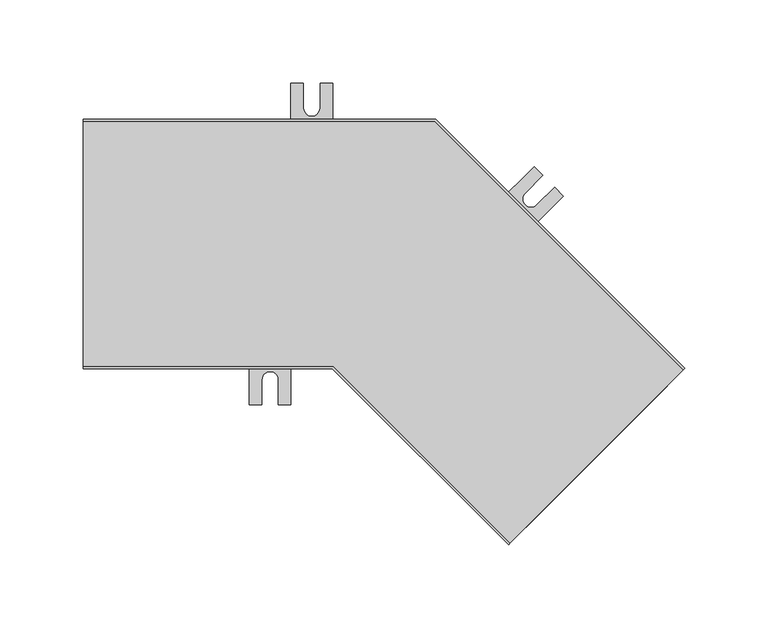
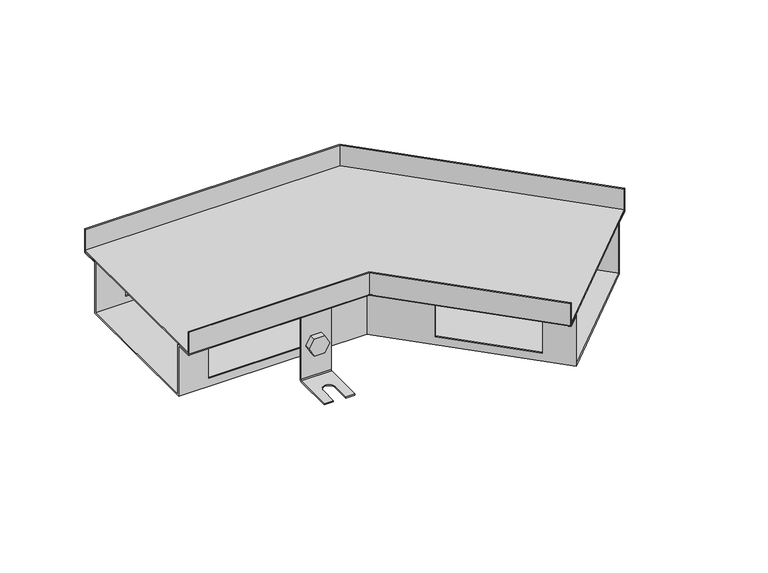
"""IFC4 building model written with IfcOpenShell, lengths in millimetres: proxy geometry, TECHNO_Угловой элемент_KVU : 150_065_135°."""

from ifc_helpers import new_model, si_unit, point, frame, frame_2d, origin, place, context, project, spatial, polyline, circle_curve, ellipse_curve, trimmed, segment, composite_curve, outline, extrude, source, transform, mapped, element, save
from ifc_brep_helpers import plane_surface, cylinder_surface, revolved_surface, advanced_brep


def mechanical_equipment_8c528c47(model_context):
    return source(origin(), model_context, "Body", "SolidModel", [
        extrude(outline(composite_curve([segment(trimmed(circle_curve(frame_2d((0.0, -7.5000001)), 7.5), [point((0.0, -15.0))], [point((0.0, 0.0))], False, "CARTESIAN"), True, "CONTINUOUS"), segment(trimmed(circle_curve(frame_2d((0.0, -7.5000001)), 7.5), [point((0.0, 0.0))], [point((0.0, -15.0))], False, "CARTESIAN"), True, "CONTINUOUS")], self_intersect=False)), frame((254.0021428, -34.3187084, -55.5), z_axis=(0.7071067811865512, 0.7071067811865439, 0.0), x_axis=(0.0, 0.0, 1.0)), (0.0, 0.0, 1.0), 1.5),
        extrude(outline(polyline([(0.0, 0.0), (8.660254, 0.0), (12.990381, -7.5), (8.660254, -15.0), (0.0, -15.0), (-4.330127, -7.5), (0.0, 0.0)])), frame((238.1203449, -27.3464559, -55.5), z_axis=(0.7071067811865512, 0.7071067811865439, 0.0), x_axis=(0.35355339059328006, -0.3535533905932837, -0.866025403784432)), (0.0, 0.0, 1.0), 5.1),
        advanced_brep(
        [(256.6891486, -38.7027704, -20.5), (256.6891486, -38.7027704, -83.5), (256.1234631, -39.2684558, -84.3), (232.7889394, -62.6029796, -84.3), (232.7889394, -62.6029796, -85.5), (256.1234631, -39.2684558, -85.5), (257.5376767, -37.8542423, -83.5), (257.5376767, -37.8542423, -20.5), (239.011479, -21.0251009, -20.5), (239.8600072, -20.1765727, -20.5), (239.8600072, -20.1765727, -83.5), (238.4457936, -21.5907863, -85.5), (215.1112698, -44.9253101, -85.5), (215.1112698, -44.9253101, -84.3), (238.4457936, -21.5907863, -84.3), (239.011479, -21.0251009, -83.5), (220.4145707, -50.2286109, -84.3), (231.0211724, -39.6220092, -84.3), (238.0922402, -46.693077, -84.3), (227.4856385, -57.2996788, -84.3), (227.4856385, -57.2996788, -85.5), (220.4145707, -50.2286109, -85.5), (238.0922402, -46.693077, -85.5), (231.0211724, -39.6220092, -85.5)],
        [
            (0, 1),
            (1, 2, circle_curve(frame((256.1234631, -39.2684558, -83.5), z_axis=(-0.7071067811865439, 0.7071067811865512, 0.0), x_axis=(-0.7071067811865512, -0.7071067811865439, 0.0)), 0.8)),
            (2, 3),
            (3, 4),
            (4, 5),
            (5, 6, circle_curve(frame((256.1234631, -39.2684558, -83.5), z_axis=(0.7071067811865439, -0.7071067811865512, 0.0), x_axis=(-0.7071067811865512, -0.7071067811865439, 0.0)), 2.0)),
            (6, 7),
            (7, 0),
            (8, 9),
            (9, 10),
            (10, 11, circle_curve(frame((238.4457936, -21.5907863, -83.5), z_axis=(-0.7071067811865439, 0.7071067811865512, 0.0), x_axis=(-0.7071067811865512, -0.7071067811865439, 0.0)), 2.0)),
            (11, 12),
            (12, 13),
            (13, 14),
            (14, 15, circle_curve(frame((238.4457936, -21.5907863, -83.5), z_axis=(0.7071067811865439, -0.7071067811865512, 0.0), x_axis=(-0.7071067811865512, -0.7071067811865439, 0.0)), 0.8)),
            (15, 8),
            (0, 8),
            (15, 1),
            (14, 2),
            (13, 16),
            (16, 17),
            (17, 18, circle_curve(frame((234.5567063, -43.1575431, -84.3), z_axis=(0.0, 0.0, -1.0), x_axis=(0.7071067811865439, -0.7071067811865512, 0.0)), 5.0)),
            (18, 19),
            (19, 3),
            (19, 20),
            (20, 4),
            (12, 21),
            (21, 16),
            (20, 22),
            (22, 23, circle_curve(frame((234.5567063, -43.1575431, -85.5), z_axis=(0.0, 0.0, 1.0), x_axis=(0.7071067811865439, -0.7071067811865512, 0.0)), 5.0)),
            (23, 21),
            (11, 5),
            (10, 6),
            (9, 7),
            (23, 17),
            (18, 22),
        ],
        [
            plane_surface(frame((256.6891486, -38.7027704, -20.5), z_axis=(0.7071067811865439, -0.7071067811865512, 0.0), x_axis=(0.0, 0.0, -1.0))),
            plane_surface(frame((239.011479, -21.0251009, -20.5), z_axis=(-0.7071067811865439, 0.7071067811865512, 0.0), x_axis=(0.0, 0.0, 1.0))),
            plane_surface(frame((256.6891486, -38.7027704, -20.5), z_axis=(-0.7071067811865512, -0.7071067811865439, 0.0), x_axis=(-0.7071067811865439, 0.7071067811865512, 0.0))),
            revolved_surface(polyline([(237.88010817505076, -22.156471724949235, -83.5), (255.55777772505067, -39.83414127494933, -83.5)]), (238.4457936, -21.5907863, -83.5), (-0.7071067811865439, 0.7071067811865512, 0.0)),
            plane_surface(frame((256.1234631, -39.2684558, -84.3), z_axis=(0.0, 0.0, 1.0), x_axis=(-0.7071067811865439, 0.7071067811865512, 0.0))),
            plane_surface(frame((232.7889394, -62.6029796, -84.3), z_axis=(-0.7071067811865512, -0.7071067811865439, 0.0), x_axis=(-0.7071067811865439, 0.7071067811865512, 0.0))),
            plane_surface(frame((232.7889394, -62.6029796, -85.5), z_axis=(0.0, 0.0, -1.0), x_axis=(-0.7071067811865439, 0.7071067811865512, 0.0))),
            cylinder_surface(frame((238.4457936, -21.5907863, -83.5), z_axis=(0.7071067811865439, -0.7071067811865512, 0.0), x_axis=(-0.7071067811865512, -0.7071067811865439, 0.0)), 2.0),
            plane_surface(frame((257.5376767, -37.8542423, -83.5), z_axis=(0.7071067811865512, 0.7071067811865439, 0.0), x_axis=(-0.7071067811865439, 0.7071067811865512, 0.0))),
            plane_surface(frame((257.5376767, -37.8542423, -20.5), z_axis=(0.0, 0.0, 1.0), x_axis=(-0.7071067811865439, 0.7071067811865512, 0.0))),
            plane_surface(frame((231.0211724, -39.6220092, -84.3), z_axis=(0.7071067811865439, -0.7071067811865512, 0.0), x_axis=(0.0, 0.0, -1.0))),
            plane_surface(frame((227.4856385, -57.2996788, -84.3), z_axis=(-0.707106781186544, 0.7071067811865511, 0.0), x_axis=(0.0, 0.0, -1.0))),
            revolved_surface(polyline([(238.0922402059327, -46.69307700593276, -84.3), (238.0922402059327, -46.69307700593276, -85.5)]), (234.5567063, -43.1575431, -85.5), (0.0, 0.0, 1.0)),
        ],
        [
            (0, [[1, 2, 3, 4, 5, 6, 7, 8]]),
            (1, [[9, 10, 11, 12, 13, 14, 15, 16]]),
            (2, [[-1, 17, -16, 18]]),
            (3, [[-2, -18, -15, 19]]),
            (4, [[-3, -19, -14, 20, 21, 22, 23, 24]]),
            (5, [[-4, -24, 25, 26]]),
            (5, [[-13, 27, 28, -20]]),
            (6, [[-5, -26, 29, 30, 31, -27, -12, 32]]),
            (7, [[-6, -32, -11, 33]]),
            (8, [[-7, -33, -10, 34]]),
            (9, [[-8, -34, -9, -17]]),
            (10, [[35, -21, -28, -31]]),
            (11, [[36, -29, -25, -23]]),
            (12, [[-35, -30, -36, -22]]),
        ],
    ),
        extrude(outline(composite_curve([segment(trimmed(circle_curve(frame_2d((0.0, -7.5)), 7.5), [point((0.0, -15.0))], [point((0.0, 0.0))], False, "CARTESIAN"), True, "CONTINUOUS"), segment(trimmed(circle_curve(frame_2d((0.0, -7.5)), 7.5), [point((0.0, 0.0))], [point((0.0, -15.0))], False, "CARTESIAN"), True, "CONTINUOUS")], self_intersect=False)), frame((248.910974, 17.1586653, -55.5), z_axis=(0.7071067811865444, 0.7071067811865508, 0.0), x_axis=(0.0, 0.0, -1.0)), (0.0, 0.0, 1.0), 1.5),
        extrude(outline(polyline([(0.0, 0.0), (4.330127, -7.5), (0.0, -15.0), (-8.660254, -15.0), (-12.990381, -7.5), (-8.6602541, 0.0), (0.0, 0.0)])), frame((262.2471875, 7.6408284, -55.5), z_axis=(0.7071067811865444, 0.7071067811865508, 0.0), x_axis=(0.3535533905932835, -0.3535533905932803, 0.866025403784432)), (0.0, 0.0, 1.0), 5.1),
        advanced_brep(
        [(247.2846284, 22.6033875, -20.5), (247.2846284, 22.6033875, -83.5), (247.8503138, 23.1690729, -84.3), (271.1848376, 46.5035967, -84.3), (271.1848376, 46.5035967, -85.5), (247.8503138, 23.1690729, -85.5), (246.4361002, 21.7548594, -83.5), (246.4361002, 21.7548594, -20.5), (264.9622979, 4.925718, -20.5), (264.1137698, 4.0771898, -20.5), (264.1137698, 4.0771898, -83.5), (265.5279833, 5.4914034, -85.5), (288.8625071, 28.8259272, -85.5), (288.8625071, 28.8259272, -84.3), (265.5279833, 5.4914034, -84.3), (264.9622979, 4.925718, -83.5), (283.5592063, 34.129228, -84.3), (272.9526045, 23.5226263, -84.3), (265.8815367, 30.5936941, -84.3), (276.4881384, 41.2002959, -84.3), (276.4881384, 41.2002959, -85.5), (283.5592063, 34.129228, -85.5), (265.8815367, 30.5936941, -85.5), (272.9526045, 23.5226263, -85.5)],
        [
            (0, 1),
            (1, 2, circle_curve(frame((247.8503138, 23.1690729, -83.5), z_axis=(0.7071067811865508, -0.7071067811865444, 0.0), x_axis=(0.7071067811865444, 0.7071067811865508, 0.0)), 0.8)),
            (2, 3),
            (3, 4),
            (4, 5),
            (5, 6, circle_curve(frame((247.8503138, 23.1690729, -83.5), z_axis=(-0.7071067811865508, 0.7071067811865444, 0.0), x_axis=(0.7071067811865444, 0.7071067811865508, 0.0)), 2.0)),
            (6, 7),
            (7, 0),
            (8, 9),
            (9, 10),
            (10, 11, circle_curve(frame((265.5279833, 5.4914034, -83.5), z_axis=(0.7071067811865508, -0.7071067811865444, 0.0), x_axis=(0.7071067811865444, 0.7071067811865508, 0.0)), 2.0)),
            (11, 12),
            (12, 13),
            (13, 14),
            (14, 15, circle_curve(frame((265.5279833, 5.4914034, -83.5), z_axis=(-0.7071067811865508, 0.7071067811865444, 0.0), x_axis=(0.7071067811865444, 0.7071067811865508, 0.0)), 0.8)),
            (15, 8),
            (0, 8),
            (15, 1),
            (14, 2),
            (13, 16),
            (16, 17),
            (17, 18, circle_curve(frame((269.4170706, 27.0581602, -84.3), z_axis=(0.0, 0.0, -1.0), x_axis=(-0.7071067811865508, 0.7071067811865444, 0.0)), 5.0)),
            (18, 19),
            (19, 3),
            (19, 20),
            (20, 4),
            (12, 21),
            (21, 16),
            (20, 22),
            (22, 23, circle_curve(frame((269.4170706, 27.0581602, -85.5), z_axis=(0.0, 0.0, 1.0), x_axis=(-0.7071067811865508, 0.7071067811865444, 0.0)), 5.0)),
            (23, 21),
            (11, 5),
            (10, 6),
            (9, 7),
            (23, 17),
            (18, 22),
        ],
        [
            plane_surface(frame((247.2846284, 22.6033875, -20.5), z_axis=(-0.7071067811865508, 0.7071067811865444, 0.0), x_axis=(0.0, 0.0, -1.0))),
            plane_surface(frame((264.9622979, 4.925718, -20.5), z_axis=(0.7071067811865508, -0.7071067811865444, 0.0), x_axis=(0.0, 0.0, 1.0))),
            plane_surface(frame((247.2846284, 22.6033875, -20.5), z_axis=(0.7071067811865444, 0.7071067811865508, 0.0), x_axis=(0.7071067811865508, -0.7071067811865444, 0.0))),
            revolved_surface(polyline([(266.0936687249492, 6.057088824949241, -83.5), (248.41599922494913, 23.734758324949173, -83.5)]), (265.5279833, 5.4914034, -83.5), (0.7071067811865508, -0.7071067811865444, 0.0)),
            plane_surface(frame((247.8503138, 23.1690729, -84.3), z_axis=(0.0, 0.0, 1.0000000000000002), x_axis=(0.7071067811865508, -0.7071067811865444, 0.0))),
            plane_surface(frame((271.1848376, 46.5035967, -84.3), z_axis=(0.7071067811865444, 0.7071067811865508, 0.0), x_axis=(0.7071067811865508, -0.7071067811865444, 0.0))),
            plane_surface(frame((271.1848376, 46.5035967, -85.5), z_axis=(0.0, 0.0, -1.0000000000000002), x_axis=(0.7071067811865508, -0.7071067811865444, 0.0))),
            cylinder_surface(frame((265.5279833, 5.4914034, -83.5), z_axis=(-0.7071067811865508, 0.7071067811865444, 0.0), x_axis=(0.7071067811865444, 0.7071067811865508, 0.0)), 2.0),
            plane_surface(frame((246.4361002, 21.7548594, -83.5), z_axis=(-0.7071067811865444, -0.7071067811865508, 0.0), x_axis=(0.7071067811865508, -0.7071067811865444, 0.0))),
            plane_surface(frame((246.4361002, 21.7548594, -20.5), z_axis=(0.0, 0.0, 1.0000000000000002), x_axis=(0.7071067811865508, -0.7071067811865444, 0.0))),
            plane_surface(frame((272.9526045, 23.5226263, -84.3), z_axis=(-0.7071067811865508, 0.7071067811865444, 0.0), x_axis=(0.0, 0.0, -1.0))),
            plane_surface(frame((276.4881384, 41.2002959, -84.3), z_axis=(0.7071067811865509, -0.7071067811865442, 0.0), x_axis=(0.0, 0.0, -1.0))),
            revolved_surface(polyline([(265.8815366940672, 30.59369410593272, -84.3), (265.8815366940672, 30.59369410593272, -85.5)]), (269.4170706, 27.0581602, -85.5), (0.0, 0.0, 1.0)),
        ],
        [
            (0, [[1, 2, 3, 4, 5, 6, 7, 8]]),
            (1, [[9, 10, 11, 12, 13, 14, 15, 16]]),
            (2, [[-1, 17, -16, 18]]),
            (3, [[-2, -18, -15, 19]]),
            (4, [[-3, -19, -14, 20, 21, 22, 23, 24]]),
            (5, [[-4, -24, 25, 26]]),
            (5, [[-13, 27, 28, -20]]),
            (6, [[-5, -26, 29, 30, 31, -27, -12, 32]]),
            (7, [[-6, -32, -11, 33]]),
            (8, [[-7, -33, -10, 34]]),
            (9, [[-8, -34, -9, -17]]),
            (10, [[35, -21, -28, -31]]),
            (11, [[36, -29, -25, -23]]),
            (12, [[-35, -30, -36, -22]]),
        ],
    ),
        extrude(outline(composite_curve([segment(trimmed(circle_curve(frame_2d((-55.5, 137.5)), 7.5), [point((-55.5, 130.0))], [point((-55.5, 145.0))], False, "CARTESIAN"), True, "CONTINUOUS"), segment(trimmed(circle_curve(frame_2d((-55.5, 137.5)), 7.5), [point((-55.5, 145.0))], [point((-55.5, 130.0))], False, "CARTESIAN"), True, "CONTINUOUS")], self_intersect=False)), frame((0.0, 60.2, 0.0), z_axis=(0.0, 1.0, 0.0), x_axis=(0.0, 0.0, 1.0)), (0.0, 0.0, 1.0), 1.5),
        extrude(outline(polyline([(-55.5, 128.839746), (-63.0, 133.169873), (-63.0, 141.830127), (-55.5, 146.160254), (-48.0, 141.830127), (-48.0, 133.169873), (-55.5, 128.839746)])), frame((0.0, 62.9, 0.0), z_axis=(0.0, 1.0, 0.0), x_axis=(0.0, 0.0, 1.0)), (0.0, 0.0, 1.0), 5.1),
        advanced_brep(
        [(150.0, 62.9, -20.5), (150.0, 61.7, -20.5), (150.0, 61.7, -83.5), (150.0, 63.7, -85.5), (150.0, 96.7, -85.5), (150.0, 96.7, -84.3), (150.0, 63.7, -84.3), (150.0, 62.9, -83.5), (125.0, 62.9, -20.5), (125.0, 62.9, -83.5), (125.0, 63.7, -84.3), (125.0, 96.7, -84.3), (125.0, 96.7, -85.5), (125.0, 63.7, -85.5), (125.0, 61.7, -83.5), (125.0, 61.7, -20.5), (142.5, 96.7, -84.3), (142.5, 81.7, -84.3), (132.5, 81.7, -84.3), (132.5, 96.7, -84.3), (132.5, 96.7, -85.5), (142.5, 96.7, -85.5), (132.5, 81.7, -85.5), (142.5, 81.7, -85.5)],
        [
            (0, 1),
            (1, 2),
            (2, 3, circle_curve(frame((150.0, 63.7, -83.5), z_axis=(1.0, 0.0, 0.0), x_axis=(0.0, 1.0, 0.0)), 2.0)),
            (3, 4),
            (4, 5),
            (5, 6),
            (6, 7, circle_curve(frame((150.0, 63.7, -83.5), z_axis=(-1.0, 0.0, 0.0), x_axis=(0.0, 1.0, 0.0)), 0.8)),
            (7, 0),
            (8, 9),
            (9, 10, circle_curve(frame((125.0, 63.7, -83.5), z_axis=(1.0, 0.0, 0.0), x_axis=(0.0, 1.0, 0.0)), 0.8)),
            (10, 11),
            (11, 12),
            (12, 13),
            (13, 14, circle_curve(frame((125.0, 63.7, -83.5), z_axis=(-1.0, 0.0, 0.0), x_axis=(0.0, 1.0, 0.0)), 2.0)),
            (14, 15),
            (15, 8),
            (7, 9),
            (8, 0),
            (6, 10),
            (5, 16),
            (16, 17),
            (17, 18, circle_curve(frame((137.5, 81.7, -84.3), z_axis=(0.0, 0.0, -1.0), x_axis=(1.0, 0.0, 0.0)), 5.0)),
            (18, 19),
            (19, 11),
            (19, 20),
            (20, 12),
            (4, 21),
            (21, 16),
            (3, 13),
            (20, 22),
            (22, 23, circle_curve(frame((137.5, 81.7, -85.5), z_axis=(0.0, 0.0, 1.0), x_axis=(1.0, 0.0, 0.0)), 5.0)),
            (23, 21),
            (2, 14),
            (1, 15),
            (18, 22),
            (23, 17),
        ],
        [
            plane_surface(frame((150.0, 62.9, -20.5), z_axis=(1.0, 0.0, 0.0), x_axis=(0.0, 0.0, -1.0))),
            plane_surface(frame((125.0, 62.9, -20.5), z_axis=(-1.0, 0.0, 0.0), x_axis=(0.0, 0.0, 1.0))),
            plane_surface(frame((150.0, 62.9, -20.5), z_axis=(0.0, 1.0, 0.0), x_axis=(-1.0, 0.0, 0.0))),
            revolved_surface(polyline([(125.0, 64.5, -83.5), (150.0, 64.5, -83.5)]), (125.0, 63.7, -83.5), (-1.0, 0.0, 0.0)),
            plane_surface(frame((150.0, 63.7, -84.3), z_axis=(0.0, 0.0, 1.0), x_axis=(-1.0, 0.0, 0.0))),
            plane_surface(frame((150.0, 96.7, -84.3), z_axis=(0.0, 1.0, 0.0), x_axis=(-1.0, 0.0, 0.0))),
            plane_surface(frame((150.0, 96.7, -85.5), z_axis=(0.0, 0.0, -1.0), x_axis=(-1.0, 0.0, 0.0))),
            cylinder_surface(frame((125.0, 63.7, -83.5), z_axis=(1.0, 0.0, 0.0), x_axis=(0.0, 1.0, 0.0)), 2.0),
            plane_surface(frame((150.0, 61.7, -83.5), z_axis=(0.0, -1.0, 0.0), x_axis=(-1.0, 0.0, 0.0))),
            plane_surface(frame((150.0, 61.7, -20.5), z_axis=(0.0, 0.0, 1.0), x_axis=(-1.0, 0.0, 0.0))),
            plane_surface(frame((132.5, 81.7, -84.3), z_axis=(1.0, 0.0, 0.0), x_axis=(0.0, 0.0, -1.0))),
            plane_surface(frame((142.5, 96.7, -84.3), z_axis=(-1.0, 0.0, 0.0), x_axis=(0.0, 0.0, -1.0))),
            revolved_surface(polyline([(142.5, 81.7, -84.3), (142.5, 81.7, -85.5)]), (137.5, 81.7, -85.5), (0.0, 0.0, 1.0)),
        ],
        [
            (0, [[1, 2, 3, 4, 5, 6, 7, 8]]),
            (1, [[9, 10, 11, 12, 13, 14, 15, 16]]),
            (2, [[17, -9, 18, -8]]),
            (3, [[19, -10, -17, -7]]),
            (4, [[20, 21, 22, 23, 24, -11, -19, -6]]),
            (5, [[-24, 25, 26, -12]]),
            (5, [[27, 28, -20, -5]]),
            (6, [[29, -13, -26, 30, 31, 32, -27, -4]]),
            (7, [[33, -14, -29, -3]]),
            (8, [[34, -15, -33, -2]]),
            (9, [[-18, -16, -34, -1]]),
            (10, [[-30, -25, -23, 35]]),
            (11, [[-21, -28, -32, 36]]),
            (12, [[-22, -36, -31, -35]]),
        ],
    ),
        extrude(outline(composite_curve([segment(trimmed(circle_curve(frame_2d((-55.5, 112.5)), 7.5), [point((-55.5, 105.0))], [point((-55.5, 120.0))], False, "CARTESIAN"), True, "CONTINUOUS"), segment(trimmed(circle_curve(frame_2d((-55.5, 112.5)), 7.5), [point((-55.5, 120.0))], [point((-55.5, 105.0))], False, "CARTESIAN"), True, "CONTINUOUS")], self_intersect=False)), frame((0.0, -61.7, 0.0), z_axis=(0.0, 1.0, 0.0), x_axis=(0.0, 0.0, 1.0)), (0.0, 0.0, 1.0), 1.5),
        extrude(outline(polyline([(-55.5, 103.839746), (-63.0, 108.169873), (-63.0, 116.830127), (-55.5, 121.160254), (-48.0, 116.830127), (-48.0, 108.169873), (-55.5, 103.839746)])), frame((0.0, -68.0, 0.0), z_axis=(0.0, 1.0, 0.0), x_axis=(0.0, 0.0, 1.0)), (0.0, 0.0, 1.0), 5.1),
        advanced_brep(
        [(125.0, -62.9, -20.5), (125.0, -62.9, -83.5), (125.0, -63.7, -84.3), (125.0, -96.7, -84.3), (125.0, -96.7, -85.5), (125.0, -63.7, -85.5), (125.0, -61.7, -83.5), (125.0, -61.7, -20.5), (100.0, -62.9, -20.5), (100.0, -61.7, -20.5), (100.0, -61.7, -83.5), (100.0, -63.7, -85.5), (100.0, -96.7, -85.5), (100.0, -96.7, -84.3), (100.0, -63.7, -84.3), (100.0, -62.9, -83.5), (107.5, -96.7, -84.3), (107.5, -81.7, -84.3), (117.5, -81.7, -84.3), (117.5, -96.7, -84.3), (117.5, -96.7, -85.5), (107.5, -96.7, -85.5), (117.5, -81.7, -85.5), (107.5, -81.7, -85.5)],
        [
            (0, 1),
            (1, 2, circle_curve(frame((125.0, -63.7, -83.5), z_axis=(-1.0, 0.0, 0.0), x_axis=(0.0, -1.0, 0.0)), 0.8)),
            (2, 3),
            (3, 4),
            (4, 5),
            (5, 6, circle_curve(frame((125.0, -63.7, -83.5), z_axis=(1.0, 0.0, 0.0), x_axis=(0.0, -1.0, 0.0)), 2.0)),
            (6, 7),
            (7, 0),
            (8, 9),
            (9, 10),
            (10, 11, circle_curve(frame((100.0, -63.7, -83.5), z_axis=(-1.0, 0.0, 0.0), x_axis=(0.0, -1.0, 0.0)), 2.0)),
            (11, 12),
            (12, 13),
            (13, 14),
            (14, 15, circle_curve(frame((100.0, -63.7, -83.5), z_axis=(1.0, 0.0, 0.0), x_axis=(0.0, -1.0, 0.0)), 0.8)),
            (15, 8),
            (0, 8),
            (15, 1),
            (14, 2),
            (13, 16),
            (16, 17),
            (17, 18, circle_curve(frame((112.5, -81.7, -84.3), z_axis=(0.0, 0.0, -1.0), x_axis=(1.0, 0.0, 0.0)), 5.0)),
            (18, 19),
            (19, 3),
            (19, 20),
            (20, 4),
            (12, 21),
            (21, 16),
            (20, 22),
            (22, 23, circle_curve(frame((112.5, -81.7, -85.5), z_axis=(0.0, 0.0, 1.0), x_axis=(1.0, 0.0, 0.0)), 5.0)),
            (23, 21),
            (11, 5),
            (10, 6),
            (9, 7),
            (23, 17),
            (18, 22),
        ],
        [
            plane_surface(frame((125.0, -62.9, -20.5), z_axis=(1.0, 0.0, 0.0), x_axis=(0.0, 0.0, -1.0))),
            plane_surface(frame((100.0, -62.9, -20.5), z_axis=(-1.0, 0.0, 0.0), x_axis=(0.0, 0.0, 1.0))),
            plane_surface(frame((125.0, -62.9, -20.5), z_axis=(0.0, -1.0, 0.0), x_axis=(-1.0, 0.0, 0.0))),
            revolved_surface(polyline([(100.0, -64.5, -83.5), (125.0, -64.5, -83.5)]), (100.0, -63.7, -83.5), (-1.0, 0.0, 0.0)),
            plane_surface(frame((125.0, -63.7, -84.3), z_axis=(0.0, 0.0, 1.0), x_axis=(-1.0, 0.0, 0.0))),
            plane_surface(frame((125.0, -96.7, -84.3), z_axis=(0.0, -1.0, 0.0), x_axis=(-1.0, 0.0, 0.0))),
            plane_surface(frame((125.0, -96.7, -85.5), z_axis=(0.0, 0.0, -1.0), x_axis=(-1.0, 0.0, 0.0))),
            cylinder_surface(frame((100.0, -63.7, -83.5), z_axis=(1.0, 0.0, 0.0), x_axis=(0.0, -1.0, 0.0)), 2.0),
            plane_surface(frame((125.0, -61.7, -83.5), z_axis=(0.0, 1.0, 0.0), x_axis=(-1.0, 0.0, 0.0))),
            plane_surface(frame((125.0, -61.7, -20.5), z_axis=(0.0, 0.0, 1.0), x_axis=(-1.0, 0.0, 0.0))),
            plane_surface(frame((107.5, -81.7, -84.3), z_axis=(1.0, 0.0, 0.0), x_axis=(0.0, 0.0, -1.0))),
            plane_surface(frame((117.5, -96.7, -84.3), z_axis=(-1.0, 0.0, 0.0), x_axis=(0.0, 0.0, -1.0))),
            revolved_surface(polyline([(117.5, -81.7, -84.3), (117.5, -81.7, -85.5)]), (112.5, -81.7, -85.5), (0.0, 0.0, 1.0)),
        ],
        [
            (0, [[1, 2, 3, 4, 5, 6, 7, 8]]),
            (1, [[9, 10, 11, 12, 13, 14, 15, 16]]),
            (2, [[-1, 17, -16, 18]]),
            (3, [[-2, -18, -15, 19]]),
            (4, [[-3, -19, -14, 20, 21, 22, 23, 24]]),
            (5, [[-4, -24, 25, 26]]),
            (5, [[-13, 27, 28, -20]]),
            (6, [[-5, -26, 29, 30, 31, -27, -12, 32]]),
            (7, [[-6, -32, -11, 33]]),
            (8, [[-7, -33, -10, 34]]),
            (9, [[-8, -34, -9, -17]]),
            (10, [[35, -21, -28, -31]]),
            (11, [[36, -29, -25, -23]]),
            (12, [[-35, -30, -36, -22]]),
        ],
    ),
        extrude(outline(polyline([(361.0581095, -75.7551657), (256.6891486, -180.1241267), (150.3650219, -73.8), (0.0, -73.8), (0.0, 73.8), (211.5029437, 73.8), (361.0581095, -75.7551657)])), frame((0.0, 0.0, -19.3), z_axis=(0.0, 0.0, 1.0), x_axis=(1.0, 0.0, 0.0)), (0.0, 0.0, 1.0), 1.2),
        advanced_brep(
        [(255.8406204, -180.9726548, -19.3), (256.6891486, -180.1241267, -20.5), (266.3058008, -170.5074744, -20.5), (266.3058008, -170.5074744, -65.0), (351.4414572, -85.371818, -65.0), (351.4414572, -85.371818, -20.5), (361.0581095, -75.7551657, -20.5), (361.9066376, -74.9066376, -19.3), (361.9066376, -74.9066376, 0.0), (361.0581095, -75.7551657, 0.0), (361.0581095, -75.7551657, -19.3), (351.4414572, -85.371818, -19.3), (350.5929291, -86.2203461, -20.5), (350.5929291, -86.2203461, -63.8), (267.1543289, -169.6589463, -63.8), (267.1543289, -169.6589463, -20.5), (266.3058008, -170.5074744, -19.3), (256.6891486, -180.1241267, -19.3), (256.6891486, -180.1241267, 0.0), (255.8406204, -180.9726548, 0.0), (0.0, -75.0, -19.3), (0.0, -75.0, 0.0), (0.0, -73.8, 0.0), (0.0, -73.8, -19.3), (0.0, -60.2, -19.3), (0.0, -59.0, -20.5), (0.0, -59.0, -63.8), (0.0, 59.0, -63.8), (0.0, 59.0, -20.5), (0.0, 60.2, -19.3), (0.0, 73.8, -19.3), (0.0, 73.8, 0.0), (0.0, 75.0, 0.0), (0.0, 75.0, -19.3), (0.0, 73.8, -20.5), (0.0, 60.2, -20.5), (0.0, 60.2, -65.0), (0.0, -60.2, -65.0), (0.0, -60.2, -20.5), (0.0, -73.8, -20.5), (150.3650219, -73.8, -20.5), (149.8679656, -75.0, -19.3), (150.3650219, -73.8, 0.0), (150.3650219, -73.8, -19.3), (155.9983264, -60.2, -65.0), (155.9983264, -60.2, -20.5), (25.0, -60.2, -23.0), (105.0, -60.2, -23.0), (105.0, -60.2, -58.0), (25.0, -60.2, -58.0), (156.4953826, -59.0, -20.5), (156.4953826, -59.0, -63.8), (105.0, -59.0, -23.0), (25.0, -59.0, -23.0), (25.0, -59.0, -58.0), (105.0, -59.0, -58.0), (155.9983264, -60.2, -19.3), (192.0595888, -96.2612624, -23.0), (248.6281313, -152.8298049, -23.0), (248.6281313, -152.8298049, -58.0), (192.0595888, -96.2612624, -58.0), (205.8696393, 60.2, -65.0), (205.372583, 59.0, -63.8), (249.4766594, -151.9812768, -23.0), (192.9081169, -95.4127343, -23.0), (192.9081169, -95.4127343, -58.0), (249.4766594, -151.9812768, -58.0), (149.8679656, -75.0, 0.0), (205.8696393, 60.2, -20.5), (333.7637877, -67.6941484, -23.0), (277.1952452, -11.1256059, -23.0), (277.1952452, -11.1256059, -58.0), (333.7637877, -67.6941484, -58.0), (211.5029437, 73.8, -20.5), (212.0, 75.0, -19.3), (212.0, 75.0, 0.0), (211.5029437, 73.8, 0.0), (211.5029437, 73.8, -19.3), (205.8696393, 60.2, -19.3), (205.372583, 59.0, -20.5), (276.3467171, -11.9741341, -23.0), (332.9152596, -68.5426766, -23.0), (332.9152596, -68.5426766, -58.0), (276.3467171, -11.9741341, -58.0), (105.0, 60.2, -23.0), (25.0, 60.2, -23.0), (25.0, 60.2, -58.0), (105.0, 60.2, -58.0), (25.0, 59.0, -23.0), (105.0, 59.0, -23.0), (105.0, 59.0, -58.0), (25.0, 59.0, -58.0)],
        [
            (0, 1, circle_curve(frame((256.6891486, -180.1241267, -19.3), z_axis=(0.707106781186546, -0.707106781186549, 0.0), x_axis=(-0.707106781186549, -0.707106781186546, 0.0)), 1.2)),
            (1, 2),
            (2, 3),
            (3, 4),
            (4, 5),
            (5, 6),
            (6, 7, circle_curve(frame((361.0581095, -75.7551657, -19.3), z_axis=(0.707106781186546, -0.707106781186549, 0.0), x_axis=(-0.707106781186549, -0.707106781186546, 0.0)), 1.2)),
            (7, 8),
            (8, 9),
            (9, 10),
            (10, 11),
            (11, 12, circle_curve(frame((351.4414572, -85.371818, -20.5), z_axis=(0.707106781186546, -0.707106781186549, 0.0), x_axis=(-0.707106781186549, -0.707106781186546, 0.0)), 1.2)),
            (12, 13),
            (13, 14),
            (14, 15),
            (15, 16, circle_curve(frame((266.3058008, -170.5074744, -20.5), z_axis=(0.707106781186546, -0.707106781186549, 0.0), x_axis=(-0.707106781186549, -0.707106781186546, 0.0)), 1.2)),
            (16, 17),
            (17, 18),
            (18, 19),
            (19, 0),
            (20, 21),
            (21, 22),
            (22, 23),
            (23, 24),
            (24, 25, circle_curve(frame((0.0, -60.2, -20.5), z_axis=(-1.0, 0.0, 0.0), x_axis=(0.0, -1.0, 0.0)), 1.2)),
            (25, 26),
            (26, 27),
            (27, 28),
            (28, 29, circle_curve(frame((0.0, 60.2, -20.5), z_axis=(-1.0, 0.0, 0.0), x_axis=(0.0, -1.0, 0.0)), 1.2)),
            (29, 30),
            (30, 31),
            (31, 32),
            (32, 33),
            (33, 34, circle_curve(frame((0.0, 73.8, -19.3), z_axis=(-1.0, 0.0, 0.0), x_axis=(0.0, -1.0, 0.0)), 1.2)),
            (34, 35),
            (35, 36),
            (36, 37),
            (37, 38),
            (38, 39),
            (39, 20, circle_curve(frame((0.0, -73.8, -19.3), z_axis=(-1.0, 0.0, 0.0), x_axis=(0.0, -1.0, 0.0)), 1.2)),
            (39, 40),
            (40, 41, ellipse_curve(frame((150.3650219, -73.8, -19.3), z_axis=(-0.9238795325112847, 0.3826834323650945, 0.0), x_axis=(0.38268343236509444, 0.9238795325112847, 0.0)), 1.2988706, 1.2)),
            (41, 20),
            (22, 42),
            (42, 43),
            (43, 23),
            (37, 44),
            (44, 45),
            (45, 38),
            (46, 47),
            (47, 48),
            (48, 49),
            (49, 46),
            (25, 50),
            (50, 51),
            (51, 26),
            (52, 53),
            (53, 54),
            (54, 55),
            (55, 52),
            (24, 56),
            (56, 50, ellipse_curve(frame((155.9983264, -60.2, -20.5), z_axis=(-0.9238795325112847, 0.3826834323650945, 0.0), x_axis=(0.38268343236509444, 0.9238795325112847, 0.0)), 1.2988706, 1.2)),
            (0, 41),
            (40, 1),
            (45, 2),
            (44, 3),
            (57, 58),
            (58, 59),
            (59, 60),
            (60, 57),
            (36, 61),
            (61, 4),
            (13, 62),
            (62, 27),
            (51, 14),
            (50, 15),
            (63, 64),
            (64, 65),
            (65, 66),
            (66, 63),
            (56, 16),
            (43, 17),
            (42, 18),
            (21, 67),
            (67, 19),
            (61, 68),
            (68, 5),
            (69, 70),
            (70, 71),
            (71, 72),
            (72, 69),
            (68, 35),
            (34, 73),
            (73, 6),
            (73, 74, ellipse_curve(frame((211.5029437, 73.8, -19.3), z_axis=(0.9238795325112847, -0.3826834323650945, 0.0), x_axis=(-0.38268343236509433, -0.9238795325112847, 0.0)), 1.2988706, 1.2)),
            (74, 7),
            (74, 75),
            (75, 8),
            (75, 32),
            (31, 76),
            (76, 9),
            (76, 77),
            (77, 10),
            (77, 30),
            (29, 78),
            (78, 11),
            (78, 79, ellipse_curve(frame((205.8696393, 60.2, -20.5), z_axis=(0.9238795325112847, -0.3826834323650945, 0.0), x_axis=(-0.38268343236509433, -0.9238795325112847, 0.0)), 1.2988706, 1.2)),
            (79, 12),
            (79, 62),
            (80, 81),
            (81, 82),
            (82, 83),
            (83, 80),
            (84, 85),
            (85, 86),
            (86, 87),
            (87, 84),
            (33, 74),
            (28, 79),
            (88, 89),
            (89, 90),
            (90, 91),
            (91, 88),
            (41, 67),
            (46, 53),
            (52, 47),
            (88, 85),
            (84, 89),
            (49, 54),
            (91, 86),
            (48, 55),
            (90, 87),
            (57, 64),
            (63, 58),
            (80, 70),
            (69, 81),
            (66, 59),
            (72, 82),
            (65, 60),
            (71, 83),
        ],
        [
            plane_surface(frame((308.873629, -127.9396462, 0.0), z_axis=(0.707106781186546, -0.707106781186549, 0.0), x_axis=(0.0, 0.0, 1.0))),
            plane_surface(frame((0.0, 0.0, 0.0), z_axis=(-1.0, 0.0, 0.0), x_axis=(0.0, 0.0, 1.0))),
            cylinder_surface(frame((180.9339828, -73.8, -19.3), z_axis=(1.0, 0.0, 0.0), x_axis=(0.0, -1.0, 0.0)), 1.2),
            plane_surface(frame((150.3650219, -73.8, -19.3), z_axis=(0.0, 1.0, 0.0), x_axis=(-1.0, 0.0, 0.0))),
            plane_surface(frame((155.9983264, -60.2, -20.5), z_axis=(0.0, -1.0, 0.0), x_axis=(-1.0, 0.0, 0.0))),
            plane_surface(frame((156.4953826, -59.0, -63.8), z_axis=(0.0, 1.0, 0.0), x_axis=(-1.0, 0.0, 0.0))),
            cylinder_surface(frame((180.9339828, -60.2, -20.5), z_axis=(1.0, 0.0, 0.0), x_axis=(0.0, -1.0, 0.0)), 1.2),
            cylinder_surface(frame((256.6891486, -180.1241267, -19.3), z_axis=(0.707106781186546, -0.707106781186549, 0.0), x_axis=(-0.707106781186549, -0.707106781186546, 0.0)), 1.2),
            plane_surface(frame((256.6891486, -180.1241267, -20.5), z_axis=(0.0, 0.0, -1.0), x_axis=(-0.7071067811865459, 0.7071067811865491, 0.0))),
            plane_surface(frame((266.3058008, -170.5074744, -20.5), z_axis=(-0.7071067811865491, -0.707106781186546, 0.0), x_axis=(-0.707106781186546, 0.7071067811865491, 0.0))),
            plane_surface(frame((266.3058008, -170.5074744, -65.0), z_axis=(0.0, 0.0, -1.0), x_axis=(-0.7071067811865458, 0.7071067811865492, 0.0))),
            plane_surface(frame((350.5929291, -86.2203461, -63.8), z_axis=(0.0, 0.0, 1.0), x_axis=(-0.7071067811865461, 0.707106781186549, 0.0))),
            plane_surface(frame((267.1543289, -169.6589463, -63.8), z_axis=(0.7071067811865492, 0.7071067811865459, 0.0), x_axis=(-0.7071067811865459, 0.7071067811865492, 0.0))),
            cylinder_surface(frame((266.3058008, -170.5074744, -20.5), z_axis=(0.707106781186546, -0.707106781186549, 0.0), x_axis=(-0.707106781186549, -0.707106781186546, 0.0)), 1.2),
            plane_surface(frame((266.3058008, -170.5074744, -19.3), z_axis=(0.0, 0.0, 1.0), x_axis=(-0.707106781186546, 0.7071067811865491, 0.0))),
            plane_surface(frame((256.6891486, -180.1241267, -19.3), z_axis=(0.7071067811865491, 0.7071067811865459, 0.0), x_axis=(-0.7071067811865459, 0.7071067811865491, 0.0))),
            plane_surface(frame((256.6891486, -180.1241267, 0.0), z_axis=(0.0, 0.0, 1.0), x_axis=(-0.7071067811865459, 0.7071067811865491, 0.0))),
            plane_surface(frame((351.4414572, -85.371818, -65.0), z_axis=(0.7071067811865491, 0.707106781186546, 0.0), x_axis=(-0.707106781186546, 0.7071067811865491, 0.0))),
            plane_surface(frame((351.4414572, -85.371818, -20.5), z_axis=(0.0, 0.0, -1.0000000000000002), x_axis=(-0.7071067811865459, 0.7071067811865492, 0.0))),
            cylinder_surface(frame((361.0581095, -75.7551657, -19.3), z_axis=(0.707106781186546, -0.707106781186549, 0.0), x_axis=(-0.707106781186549, -0.707106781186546, 0.0)), 1.2),
            plane_surface(frame((361.9066376, -74.9066376, -19.3), z_axis=(0.7071067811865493, 0.7071067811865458, 0.0), x_axis=(-0.7071067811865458, 0.7071067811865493, 0.0))),
            plane_surface(frame((361.9066376, -74.9066376, 0.0), z_axis=(0.0, 0.0, 1.0), x_axis=(-0.7071067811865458, 0.7071067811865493, 0.0))),
            plane_surface(frame((361.0581095, -75.7551657, 0.0), z_axis=(-0.7071067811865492, -0.7071067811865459, 0.0), x_axis=(-0.7071067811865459, 0.7071067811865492, 0.0))),
            plane_surface(frame((361.0581095, -75.7551657, -19.3), z_axis=(0.0, 0.0, 1.0), x_axis=(-0.7071067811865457, 0.7071067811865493, 0.0))),
            cylinder_surface(frame((351.4414572, -85.371818, -20.5), z_axis=(0.707106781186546, -0.707106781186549, 0.0), x_axis=(-0.707106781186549, -0.707106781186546, 0.0)), 1.2),
            plane_surface(frame((350.5929291, -86.2203461, -20.5), z_axis=(-0.707106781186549, -0.7071067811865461, 0.0), x_axis=(-0.7071067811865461, 0.707106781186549, 0.0))),
            plane_surface(frame((205.8696393, 60.2, -65.0), z_axis=(0.0, 1.0, 0.0), x_axis=(-1.0, 0.0, 0.0))),
            cylinder_surface(frame((180.9339828, 73.8, -19.3), z_axis=(1.0, 0.0, 0.0), x_axis=(0.0, -1.0, 0.0)), 1.2),
            plane_surface(frame((212.0, 75.0, -19.3), z_axis=(0.0, 1.0, 0.0), x_axis=(-1.0, 0.0, 0.0))),
            plane_surface(frame((211.5029437, 73.8, 0.0), z_axis=(0.0, -1.0, 0.0), x_axis=(-1.0, 0.0, 0.0))),
            cylinder_surface(frame((180.9339828, 60.2, -20.5), z_axis=(1.0, 0.0, 0.0), x_axis=(0.0, -1.0, 0.0)), 1.2),
            plane_surface(frame((205.372583, 59.0, -20.5), z_axis=(0.0, -1.0, 0.0), x_axis=(-1.0, 0.0, 0.0))),
            plane_surface(frame((149.8679656, -75.0, 0.0), z_axis=(0.0, -1.0, 0.0), x_axis=(-1.0, 0.0, 0.0))),
            plane_surface(frame((255.8406204, -180.9726548, 0.0), z_axis=(-0.7071067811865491, -0.7071067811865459, 0.0), x_axis=(-0.7071067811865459, 0.7071067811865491, 0.0))),
            plane_surface(frame((25.0, 75.0, -23.0), z_axis=(0.0, 0.0, -1.0), x_axis=(0.0, -1.0, 0.0))),
            plane_surface(frame((25.0, 75.0, -58.0), z_axis=(1.0, 0.0, 0.0), x_axis=(0.0, -1.0, 0.0))),
            plane_surface(frame((105.0, 75.0, -58.0), z_axis=(0.0, 0.0, 1.0), x_axis=(0.0, -1.0, 0.0))),
            plane_surface(frame((105.0, 75.0, -23.0), z_axis=(-1.0, 0.0, 0.0), x_axis=(0.0, -1.0, 0.0))),
            plane_surface(frame((287.6604256, -0.6604256, -23.0), z_axis=(0.0, 0.0, -1.0), x_axis=(-0.7071067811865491, -0.7071067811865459, 0.0))),
            plane_surface(frame((344.2289681, -57.2289681, -23.0), z_axis=(-0.7071067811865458, 0.7071067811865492, 0.0), x_axis=(-0.7071067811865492, -0.7071067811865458, 0.0))),
            plane_surface(frame((344.2289681, -57.2289681, -58.0), z_axis=(0.0, 0.0, 1.0), x_axis=(-0.7071067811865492, -0.7071067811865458, 0.0))),
            plane_surface(frame((287.6604256, -0.6604256, -58.0), z_axis=(0.7071067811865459, -0.7071067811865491, 0.0), x_axis=(-0.7071067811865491, -0.7071067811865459, 0.0))),
        ],
        [
            (0, [[1, 2, 3, 4, 5, 6, 7, 8, 9, 10, 11, 12, 13, 14, 15, 16, 17, 18, 19, 20]]),
            (1, [[21, 22, 23, 24, 25, 26, 27, 28, 29, 30, 31, 32, 33, 34, 35, 36, 37, 38, 39, 40]]),
            (2, [[-40, 41, 42, 43]]),
            (3, [[-23, 44, 45, 46]]),
            (4, [[-38, 47, 48, 49], [50, 51, 52, 53]]),
            (5, [[-26, 54, 55, 56], [57, 58, 59, 60]]),
            (6, [[-25, 61, 62, -54]]),
            (7, [[-1, 63, -42, 64]]),
            (8, [[-2, -64, -41, -39, -49, 65]]),
            (9, [[-3, -65, -48, 66], [67, 68, 69, 70]]),
            (10, [[-4, -66, -47, -37, 71, 72]]),
            (11, [[-14, 73, 74, -27, -56, 75]]),
            (12, [[-15, -75, -55, 76], [77, 78, 79, 80]]),
            (13, [[-16, -76, -62, 81]]),
            (14, [[-17, -81, -61, -24, -46, 82]]),
            (15, [[-18, -82, -45, 83]]),
            (16, [[-19, -83, -44, -22, 84, 85]]),
            (17, [[-5, -72, 86, 87], [88, 89, 90, 91]]),
            (18, [[-6, -87, 92, -35, 93, 94]]),
            (19, [[-7, -94, 95, 96]]),
            (20, [[-8, -96, 97, 98]]),
            (21, [[-9, -98, 99, -32, 100, 101]]),
            (22, [[-10, -101, 102, 103]]),
            (23, [[-11, -103, 104, -30, 105, 106]]),
            (24, [[-12, -106, 107, 108]]),
            (25, [[-13, -108, 109, -73], [110, 111, 112, 113]]),
            (26, [[-36, -92, -86, -71], [114, 115, 116, 117]]),
            (27, [[-34, 118, -95, -93]]),
            (28, [[-33, -99, -97, -118]]),
            (29, [[-31, -104, -102, -100]]),
            (30, [[-29, 119, -107, -105]]),
            (31, [[-28, -74, -109, -119], [120, 121, 122, 123]]),
            (32, [[-21, -43, 124, -84]]),
            (33, [[-20, -85, -124, -63]]),
            (34, [[125, -57, 126, -50]]),
            (34, [[127, -114, 128, -120]]),
            (35, [[-125, -53, 129, -58]]),
            (35, [[-127, -123, 130, -115]]),
            (36, [[-129, -52, 131, -59]]),
            (36, [[-130, -122, 132, -116]]),
            (37, [[-131, -51, -126, -60]]),
            (37, [[-132, -121, -128, -117]]),
            (38, [[133, -77, 134, -67]]),
            (38, [[135, -88, 136, -110]]),
            (39, [[-134, -80, 137, -68]]),
            (39, [[-136, -91, 138, -111]]),
            (40, [[-137, -79, 139, -69]]),
            (40, [[-138, -90, 140, -112]]),
            (41, [[-133, -70, -139, -78]]),
            (41, [[-135, -113, -140, -89]]),
        ],
    ),
    ])


if __name__ == "__main__":
    model = new_model("IFC4")
    model_context = context("Model", 3, world=origin())
    ifc_project = project(units=[si_unit("LENGTHUNIT", "METRE", prefix="MILLI")], contexts=[model_context])
    site = spatial("IfcSite", under=ifc_project)
    building = spatial("IfcBuilding", under=site)
    placement = place(None, origin())
    mechanical_equipment_shape = mechanical_equipment_8c528c47(model_context)
    element("IfcBuildingElementProxy", 1, Name="TECHNO_Угловой элемент_KVU : 150_065_135°", ObjectType="TECHNO_Угловой элемент_KVU : 150_065_135°", at=placement, inside=building, context=model_context, shape_type="MappedRepresentation", body=[
        mapped(mechanical_equipment_shape, transform((0.0, 0.0, 0.0), x_axis=(1.0, 0.0, 0.0), y_axis=(0.0, 1.0, 0.0), z_axis=(0.0, 0.0, 1.0))),
    ])
    save(model, "model.ifc")
